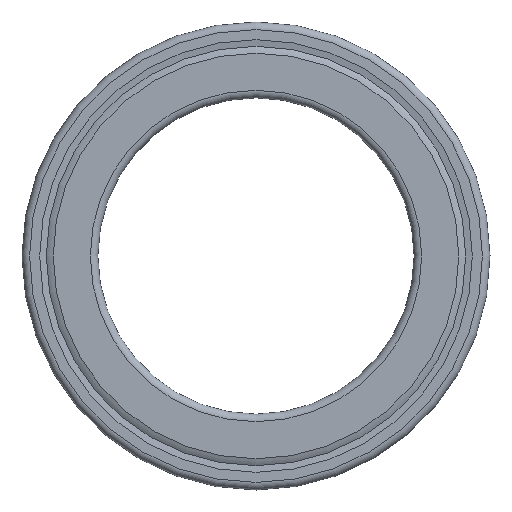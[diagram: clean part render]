
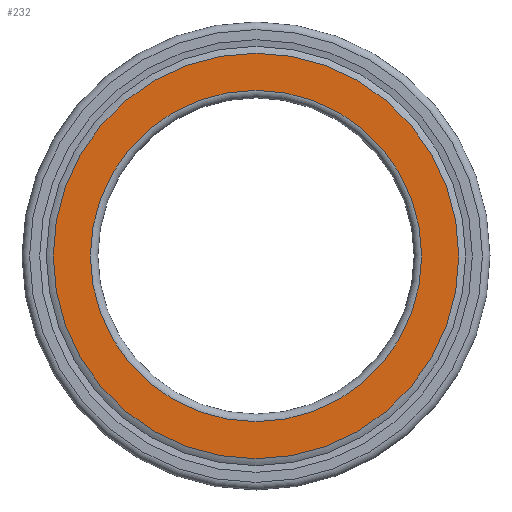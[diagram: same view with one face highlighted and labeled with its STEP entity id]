
A CAD part, left-side view. The second image highlights one B-rep face of the part: STEP entity #232.
In plain terms, the highlighted planar face has unit normal (-1, 0, 0).
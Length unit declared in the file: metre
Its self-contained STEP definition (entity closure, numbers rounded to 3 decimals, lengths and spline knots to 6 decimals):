
#30=ORIENTED_EDGE('',*,*,#74,.T.);
#31=ORIENTED_EDGE('',*,*,#75,.F.);
#74=EDGE_CURVE('',#96,#96,#118,.T.);
#75=EDGE_CURVE('',#97,#97,#119,.T.);
#96=VERTEX_POINT('',#404);
#97=VERTEX_POINT('',#406);
#118=CIRCLE('',#268,0.0131);
#119=CIRCLE('',#269,0.016029);
#140=EDGE_LOOP('',(#30));
#141=EDGE_LOOP('',(#31));
#184=FACE_BOUND('',#140,.T.);
#185=FACE_BOUND('',#141,.T.);
#228=PLANE('',#267);
#232=ADVANCED_FACE('',(#184,#185),#228,.T.);
#267=AXIS2_PLACEMENT_3D('',#402,#313,#314);
#268=AXIS2_PLACEMENT_3D('',#403,#315,#316);
#269=AXIS2_PLACEMENT_3D('',#405,#317,#318);
#313=DIRECTION('',(-1.,0.,0.));
#314=DIRECTION('',(0.,0.,1.));
#315=DIRECTION('',(1.,0.,0.));
#316=DIRECTION('',(0.,1.,0.));
#317=DIRECTION('',(1.,0.,0.));
#318=DIRECTION('',(0.,1.,0.));
#402=CARTESIAN_POINT('',(0.,0.014565,0.));
#403=CARTESIAN_POINT('',(0.,0.,0.));
#404=CARTESIAN_POINT('',(0.,0.0131,0.));
#405=CARTESIAN_POINT('',(0.,0.,0.));
#406=CARTESIAN_POINT('',(0.,0.016029,0.));
